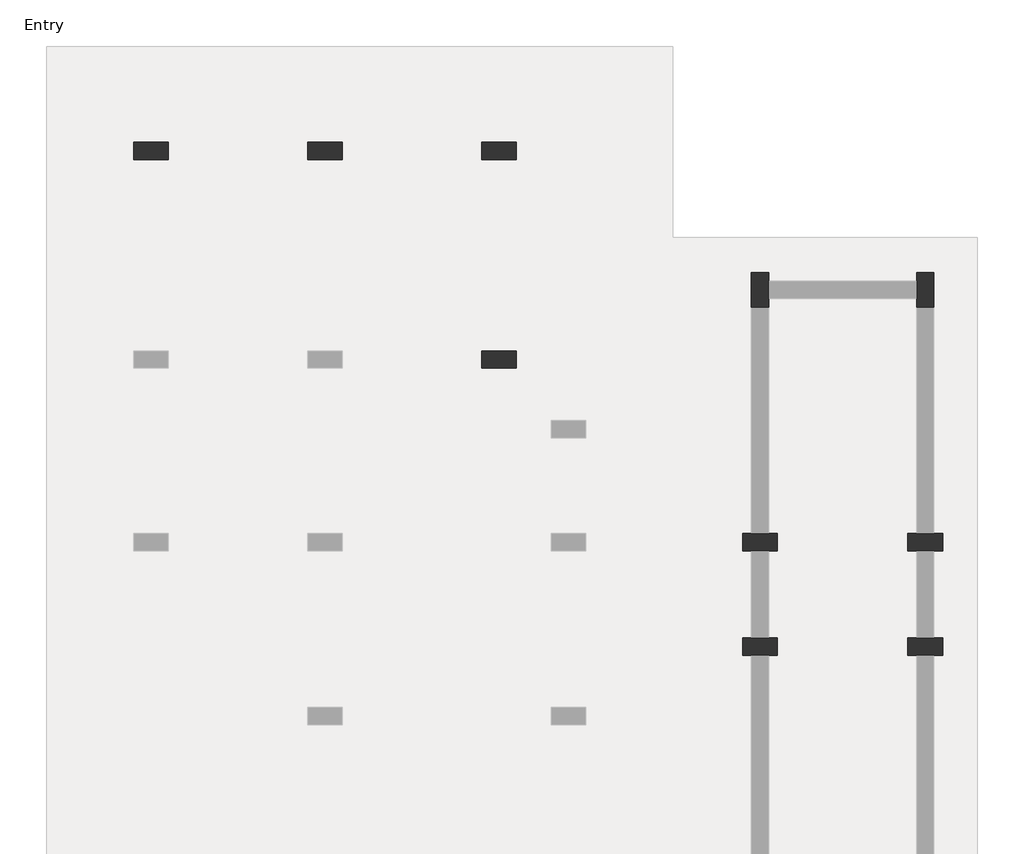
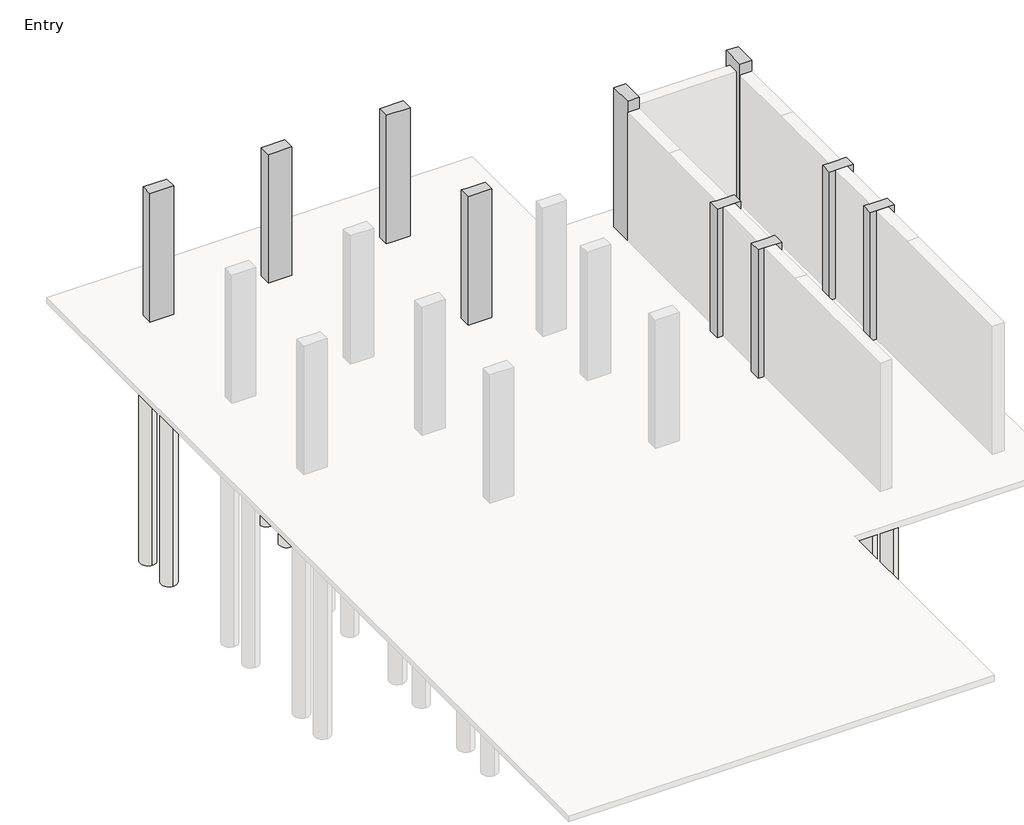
# One storey, part 3 of 3: 31 slabs, 10 columns, 5 footings.
"""IFC4 building model written with IfcOpenShell, lengths in millimetres."""

from ifc_helpers import new_model, si_unit, point, frame, frame_2d, origin, place, context, project, spatial, polyline, circle_curve, trimmed, segment, composite_curve, outline, extrude, faceted_brep, element, save

model = new_model("IFC4")

# Units and contexts
model_context = context("Model", 3, world=origin())
ifc_project = project(units=[si_unit("LENGTHUNIT", "METRE", prefix="MILLI")], contexts=[model_context])

# Site, building, storey
site = spatial("IfcSite", under=ifc_project)
building = spatial("IfcBuilding", under=site)
storey = spatial("IfcBuildingStorey", under=building, Name="Entry", Elevation=0.0)

# Columns
placement = place(None, origin())
element("IfcColumn", 1, ObjectType="Concrete-Rectangular-Column : 12 x 24", at=placement, inside=storey, context=model_context, shape_type="Brep", body=[
    faceted_brep([(-15967.1663981, 10274.1487848, 0.0), (-15357.5663981, 10274.1487848, 0.0), (-15357.5663981, 9969.3487848, 0.0), (-15967.1663981, 9969.3487848, 0.0), (-15967.1663981, 10274.1487848, 3505.2), (-15357.5663981, 10274.1487848, 3505.2), (-15357.5663981, 10274.1487848, 2895.6), (-15357.5663981, 9969.3487848, 3505.2), (-15357.5663981, 9969.3487848, 2895.6), (-15509.9663981, 9969.3487848, 3505.2), (-15814.7663981, 9969.3487848, 3505.2), (-15967.1663981, 9969.3487848, 3505.2)], [[[0, 1, 2, 3]], [[4, 5, 6, 1, 0]], [[5, 7, 8, 2, 1, 6]], [[7, 9, 10, 11, 3, 2, 8]], [[11, 4, 0, 3]], [[4, 11, 10, 9, 7, 5]]]),
])
element("IfcColumn", 2, ObjectType="Concrete-Rectangular-Column : 12 x 24", at=placement, inside=storey, context=model_context, shape_type="Brep", body=[
    faceted_brep([(-12919.1663981, 10274.1487848, 0.0), (-12309.5663981, 10274.1487848, 0.0), (-12309.5663981, 9969.3487848, 0.0), (-12919.1663981, 9969.3487848, 0.0), (-12919.1663981, 10274.1487848, 3505.2), (-12309.5663981, 10274.1487848, 3505.2), (-12309.5663981, 10274.1487848, 2895.6), (-12919.1663981, 10274.1487848, 2895.6), (-12309.5663981, 9969.3487848, 3505.2), (-12309.5663981, 9969.3487848, 2895.6), (-12461.9663981, 9969.3487848, 3505.2), (-12766.7663981, 9969.3487848, 3505.2), (-12919.1663981, 9969.3487848, 3505.2), (-12919.1663981, 9969.3487848, 2895.6)], [[[0, 1, 2, 3]], [[4, 5, 6, 1, 0, 7]], [[5, 8, 9, 2, 1, 6]], [[8, 10, 11, 12, 13, 3, 2, 9]], [[12, 4, 7, 0, 3, 13]], [[4, 12, 11, 10, 8, 5]]]),
])
element("IfcColumn", 3, ObjectType="Concrete-Rectangular-Column : 12 x 24", at=placement, inside=storey, context=model_context, shape_type="Brep", body=[
    faceted_brep([(-9871.1663981, 10274.1487848, 0.0), (-9261.5663981, 10274.1487848, 0.0), (-9261.5663981, 9969.3487848, 0.0), (-9871.1663981, 9969.3487848, 0.0), (-9871.1663981, 10274.1487848, 3505.2), (-9261.5663981, 10274.1487848, 3505.2), (-9871.1663981, 10274.1487848, 2895.6), (-9261.5663981, 9969.3487848, 3505.2), (-9413.9663981, 9969.3487848, 3505.2), (-9718.7663981, 9969.3487848, 3505.2), (-9871.1663981, 9969.3487848, 3505.2), (-9871.1663981, 9969.3487848, 2895.6)], [[[0, 1, 2, 3]], [[4, 5, 1, 0, 6]], [[5, 7, 2, 1]], [[7, 8, 9, 10, 11, 3, 2]], [[10, 4, 6, 0, 3, 11]], [[4, 10, 9, 8, 7, 5]]]),
])
element("IfcColumn", 4, ObjectType="Concrete-Rectangular-Column : 12 x 24", at=placement, inside=storey, context=model_context, shape_type="Brep", body=[
    faceted_brep([(-9871.1663981, 6616.5487848, 0.0), (-9261.5663981, 6616.5487848, 0.0), (-9261.5663981, 6311.7487848, 0.0), (-9871.1663981, 6311.7487848, 0.0), (-9871.1663981, 6616.5487848, 3505.2), (-9718.7663981, 6616.5487848, 3505.2), (-9413.9663981, 6616.5487848, 3505.2), (-9261.5663981, 6616.5487848, 3505.2), (-9871.1663981, 6616.5487848, 2895.6), (-9261.5663981, 6311.7487848, 3505.2), (-9413.9663981, 6311.7487848, 3505.2), (-9718.7663981, 6311.7487848, 3505.2), (-9871.1663981, 6311.7487848, 3505.2), (-9871.1663981, 6311.7487848, 2895.6)], [[[0, 1, 2, 3]], [[4, 5, 6, 7, 1, 0, 8]], [[7, 9, 2, 1]], [[9, 10, 11, 12, 13, 3, 2]], [[12, 4, 8, 0, 3, 13]], [[4, 12, 11, 10, 9, 7, 6, 5]]]),
])
element("IfcColumn", 5, ObjectType="Concrete-Rectangular-Column : 12 x 24", at=placement, inside=storey, context=model_context, shape_type="Brep", body=[
    faceted_brep([(-5299.1663981, 3416.1487848, 0.0), (-5146.7663981, 3416.1487848, 0.0), (-4841.9663981, 3416.1487848, 0.0), (-4689.5663981, 3416.1487848, 0.0), (-4689.5663981, 3111.3487848, 0.0), (-4841.9663981, 3111.3487848, 0.0), (-5146.7663981, 3111.3487848, 0.0), (-5299.1663981, 3111.3487848, 0.0), (-5299.1663981, 3416.1487848, 3505.2), (-5146.7663981, 3416.1487848, 3505.2), (-4841.9663981, 3416.1487848, 3505.2), (-4689.5663981, 3416.1487848, 3505.2), (-4689.5663981, 3111.3487848, 3505.2), (-4841.9663981, 3111.3487848, 3505.2), (-5146.7663981, 3111.3487848, 3505.2), (-5299.1663981, 3111.3487848, 3505.2)], [[[0, 1, 2, 3, 4, 5, 6, 7]], [[3, 2, 1, 0, 8, 9, 10, 11]], [[4, 3, 11, 12]], [[7, 6, 5, 4, 12, 13, 14, 15]], [[0, 7, 15, 8]], [[11, 10, 9, 8, 15, 14, 13, 12]]]),
])
element("IfcColumn", 6, ObjectType="Concrete-Rectangular-Column : 12 x 24", at=placement, inside=storey, context=model_context, shape_type="Brep", body=[
    faceted_brep([(-2403.5663981, 3416.1487848, 0.0), (-2251.1663981, 3416.1487848, 0.0), (-1946.3663981, 3416.1487848, 0.0), (-1793.9663981, 3416.1487848, 0.0), (-1793.9663981, 3111.3487848, 0.0), (-1946.3663981, 3111.3487848, 0.0), (-2251.1663981, 3111.3487848, 0.0), (-2403.5663981, 3111.3487848, 0.0), (-2403.5663981, 3416.1487848, 3505.2), (-2251.1663981, 3416.1487848, 3505.2), (-1946.3663981, 3416.1487848, 3505.2), (-1793.9663981, 3416.1487848, 3505.2), (-1793.9663981, 3111.3487848, 3505.2), (-1946.3663981, 3111.3487848, 3505.2), (-2251.1663981, 3111.3487848, 3505.2), (-2403.5663981, 3111.3487848, 3505.2)], [[[0, 1, 2, 3, 4, 5, 6, 7]], [[3, 2, 1, 0, 8, 9, 10, 11]], [[4, 3, 11, 12]], [[7, 6, 5, 4, 12, 13, 14, 15]], [[0, 7, 15, 8]], [[11, 10, 9, 8, 15, 14, 13, 12]]]),
])
element("IfcColumn", 7, ObjectType="Concrete-Rectangular-Column : 12 x 24", at=placement, inside=storey, context=model_context, shape_type="Brep", body=[
    faceted_brep([(-5299.1663981, 1587.3487848, 0.0), (-5146.7663981, 1587.3487848, 0.0), (-4841.9663981, 1587.3487848, 0.0), (-4689.5663981, 1587.3487848, 0.0), (-4689.5663981, 1282.5487848, 0.0), (-4841.9663981, 1282.5487848, 0.0), (-5146.7663981, 1282.5487848, 0.0), (-5299.1663981, 1282.5487848, 0.0), (-5299.1663981, 1587.3487848, 3505.2), (-5146.7663981, 1587.3487848, 3505.2), (-4841.9663981, 1587.3487848, 3505.2), (-4689.5663981, 1587.3487848, 3505.2), (-4689.5663981, 1282.5487848, 3505.2), (-4841.9663981, 1282.5487848, 3505.2), (-5146.7663981, 1282.5487848, 3505.2), (-5299.1663981, 1282.5487848, 3505.2)], [[[0, 1, 2, 3, 4, 5, 6, 7]], [[3, 2, 1, 0, 8, 9, 10, 11]], [[4, 3, 11, 12]], [[7, 6, 5, 4, 12, 13, 14, 15]], [[0, 7, 15, 8]], [[11, 10, 9, 8, 15, 14, 13, 12]]]),
])
element("IfcColumn", 8, ObjectType="Concrete-Rectangular-Column : 12 x 24", at=placement, inside=storey, context=model_context, shape_type="Brep", body=[
    faceted_brep([(-2403.5663981, 1587.3487848, 0.0), (-2251.1663981, 1587.3487848, 0.0), (-1946.3663981, 1587.3487848, 0.0), (-1793.9663981, 1587.3487848, 0.0), (-1793.9663981, 1282.5487848, 0.0), (-1946.3663981, 1282.5487848, 0.0), (-2251.1663981, 1282.5487848, 0.0), (-2403.5663981, 1282.5487848, 0.0), (-2403.5663981, 1587.3487848, 3505.2), (-2251.1663981, 1587.3487848, 3505.2), (-1946.3663981, 1587.3487848, 3505.2), (-1793.9663981, 1587.3487848, 3505.2), (-1793.9663981, 1282.5487848, 3505.2), (-1946.3663981, 1282.5487848, 3505.2), (-2251.1663981, 1282.5487848, 3505.2), (-2403.5663981, 1282.5487848, 3505.2)], [[[0, 1, 2, 3, 4, 5, 6, 7]], [[3, 2, 1, 0, 8, 9, 10, 11]], [[4, 3, 11, 12]], [[7, 6, 5, 4, 12, 13, 14, 15]], [[0, 7, 15, 8]], [[11, 10, 9, 8, 15, 14, 13, 12]]]),
])
element("IfcColumn", 9, ObjectType="Concrete-Rectangular-Column : 12 x 24", at=placement, inside=storey, context=model_context, shape_type="Brep", body=[
    faceted_brep([(-5146.7663981, 7378.5487848, 0.0), (-5146.7663981, 7988.1487848, 0.0), (-4841.9663981, 7988.1487848, 0.0), (-4841.9663981, 7835.7487848, 0.0), (-4841.9663981, 7530.9487848, 0.0), (-4841.9663981, 7378.5487848, 0.0), (-5146.7663981, 7378.5487848, 3810.0), (-5146.7663981, 7988.1487848, 3810.0), (-5146.7663981, 7378.5487848, 3505.2), (-4841.9663981, 7988.1487848, 3810.0), (-4841.9663981, 7378.5487848, 3810.0), (-4841.9663981, 7378.5487848, 3505.2)], [[[0, 1, 2, 3, 4, 5]], [[6, 7, 1, 0, 8]], [[7, 9, 2, 1]], [[9, 10, 11, 5, 4, 3, 2]], [[10, 6, 8, 0, 5, 11]], [[6, 10, 9, 7]]]),
])
element("IfcColumn", 10, ObjectType="Concrete-Rectangular-Column : 12 x 24", at=placement, inside=storey, context=model_context, shape_type="Brep", body=[
    faceted_brep([(-2251.1663981, 7378.5487848, 0.0), (-2251.1663981, 7530.9487848, 0.0), (-2251.1663981, 7835.7487848, 0.0), (-2251.1663981, 7988.1487848, 0.0), (-1946.3663981, 7988.1487848, 0.0), (-1946.3663981, 7378.5487848, 0.0), (-2251.1663981, 7378.5487848, 3810.0), (-2251.1663981, 7988.1487848, 3810.0), (-2251.1663981, 7378.5487848, 3505.2), (-1946.3663981, 7988.1487848, 3810.0), (-1946.3663981, 7378.5487848, 3810.0), (-1946.3663981, 7378.5487848, 3505.2)], [[[0, 1, 2, 3, 4, 5]], [[6, 7, 3, 2, 1, 0, 8]], [[7, 9, 4, 3]], [[9, 10, 11, 5, 4]], [[10, 6, 8, 0, 5, 11]], [[6, 10, 9, 7]]]),
])

# Footings
element("IfcFooting", 11, ObjectType="Bearing Footing - 36\" x 12\"", at=placement, inside=storey, context=model_context, shape_type="Brep", body=[
    faceted_brep([(-4841.9663981, 8140.5487848, -304.8), (-4841.9663981, 8089.7487848, -304.8), (-4841.9663981, 8089.7487848, -152.4), (-4841.9663981, 8140.5487848, -152.4), (-4841.9663981, 7276.9487848, -304.8), (-4841.9663981, 7226.1487848, -304.8), (-4841.9663981, 7226.1487848, -152.4), (-4841.9663981, 7276.9487848, -152.4), (-2251.1663981, 8089.7487848, -304.8), (-2251.1663981, 8140.5487848, -304.8), (-2251.1663981, 8140.5487848, -152.4), (-2251.1663981, 8089.7487848, -152.4), (-2251.1663981, 7226.1487848, -304.8), (-2251.1663981, 7276.9487848, -304.8), (-2251.1663981, 7276.9487848, -152.4), (-2251.1663981, 7226.1487848, -152.4), (-2873.4663981, 8089.7487848, -304.8), (-2873.4663981, 7276.9487848, -304.8), (-2555.9663981, 7226.1487848, -304.8), (-4537.1663981, 7226.1487848, -304.8), (-4219.6663981, 7276.9487848, -304.8), (-4219.6663981, 8089.7487848, -304.8), (-2555.9663981, 7226.1487848, -152.4), (-4537.1663981, 7226.1487848, -152.4), (-4219.6663981, 7276.9487848, -152.4), (-4219.6663981, 8089.7487848, -152.4), (-2873.4663981, 7276.9487848, -152.4), (-2873.4663981, 8089.7487848, -152.4)], [[[0, 1, 2, 3]], [[4, 5, 6, 7]], [[8, 9, 10, 11]], [[12, 13, 14, 15]], [[9, 0, 3, 10]], [[0, 9, 8, 16, 17, 13, 12, 18, 19, 5, 4, 20, 21, 1]], [[5, 19, 18, 12, 15, 22, 23, 6]], [[20, 4, 7, 24]], [[21, 20, 24, 25]], [[1, 21, 25, 2]], [[13, 17, 26, 14]], [[16, 8, 11, 27]], [[17, 16, 27, 26]], [[3, 2, 25, 24, 7, 6, 23, 22, 15, 14, 26, 27, 11, 10]]]),
])
element("IfcFooting", 12, ObjectType="Bearing Footing - 36\" x 12\"", at=placement, inside=storey, context=model_context, shape_type="SweptSolid", body=[
    extrude(outline(polyline([(-5451.5663981, 3416.1487848), (-5451.5663981, 7276.9487848), (-4841.9663981, 7276.9487848), (-4841.9663981, 7226.1487848), (-4537.1663981, 7226.1487848), (-4537.1663981, 3416.1487848), (-4587.9663981, 3416.1487848), (-4587.9663981, 4038.4487848), (-5400.7663981, 4038.4487848), (-5400.7663981, 3416.1487848), (-5451.5663981, 3416.1487848)])), frame((0.0, 0.0, -304.8), z_axis=(0.0, 0.0, 1.0), x_axis=(1.0, 0.0, 0.0)), (0.0, 0.0, 1.0), 152.4),
])
element("IfcFooting", 13, ObjectType="Bearing Footing - 36\" x 12\"", at=placement, inside=storey, context=model_context, shape_type="SweptSolid", body=[
    extrude(outline(polyline([(-1641.5663981, 7276.9487848), (-1641.5663981, 3416.1487848), (-1692.3663981, 3416.1487848), (-1692.3663981, 4038.4487848), (-2505.1663981, 4038.4487848), (-2505.1663981, 3416.1487848), (-2555.9663981, 3416.1487848), (-2555.9663981, 7226.1487848), (-2251.1663981, 7226.1487848), (-2251.1663981, 7276.9487848), (-1641.5663981, 7276.9487848)])), frame((0.0, 0.0, -304.8), z_axis=(0.0, 0.0, 1.0), x_axis=(1.0, 0.0, 0.0)), (0.0, 0.0, 1.0), 152.4),
])
element("IfcFooting", 14, ObjectType="Bearing Footing - 36\" x 12\"", at=placement, inside=storey, context=model_context, shape_type="SweptSolid", body=[
    extrude(outline(polyline([(-4537.1663981, 3111.3487848), (-4537.1663981, 1587.3487848), (-4587.9663981, 1587.3487848), (-4587.9663981, 2209.6487848), (-5400.7663981, 2209.6487848), (-5400.7663981, 1587.3487848), (-5451.5663981, 1587.3487848), (-5451.5663981, 3111.3487848), (-5400.7663981, 3111.3487848), (-5400.7663981, 2489.0487848), (-4587.9663981, 2489.0487848), (-4587.9663981, 3111.3487848), (-4537.1663981, 3111.3487848)])), frame((0.0, 0.0, -304.8), z_axis=(0.0, 0.0, 1.0), x_axis=(1.0, 0.0, 0.0)), (0.0, 0.0, 1.0), 152.4),
])
element("IfcFooting", 15, ObjectType="Bearing Footing - 36\" x 12\"", at=placement, inside=storey, context=model_context, shape_type="SweptSolid", body=[
    extrude(outline(polyline([(-1641.5663981, 3111.3487848), (-1641.5663981, 1587.3487848), (-1692.3663981, 1587.3487848), (-1692.3663981, 2209.6487848), (-2505.1663981, 2209.6487848), (-2505.1663981, 1587.3487848), (-2555.9663981, 1587.3487848), (-2555.9663981, 3111.3487848), (-2505.1663981, 3111.3487848), (-2505.1663981, 2489.0487848), (-1692.3663981, 2489.0487848), (-1692.3663981, 3111.3487848), (-1641.5663981, 3111.3487848)])), frame((0.0, 0.0, -304.8), z_axis=(0.0, 0.0, 1.0), x_axis=(1.0, 0.0, 0.0)), (0.0, 0.0, 1.0), 152.4),
])

# Slabs
element("IfcSlab", 16, ObjectType="Pile Cap-2 Pile : 31\"x61\"x35\"", at=placement, inside=storey, context=model_context, shape_type="SweptSolid", body=[
    extrude(outline(polyline([(-16068.7663981, 10896.4487848), (-15255.9663981, 10896.4487848), (-15255.9663981, 9347.0487848), (-16068.7663981, 9347.0487848), (-16068.7663981, 10896.4487848)])), frame((0.0, 0.0, -889.0), z_axis=(0.0, 0.0, 1.0), x_axis=(1.0, 0.0, 0.0)), (0.0, 0.0, 1.0), 736.6),
])
element("IfcSlab", 17, ObjectType="Pile Cap-2 Pile : 31\"x61\"x35\"", at=placement, inside=storey, context=model_context, shape_type="SweptSolid", body=[
    extrude(outline(polyline([(-13020.7663981, 10896.4487848), (-12207.9663981, 10896.4487848), (-12207.9663981, 9347.0487848), (-13020.7663981, 9347.0487848), (-13020.7663981, 10896.4487848)])), frame((0.0, 0.0, -889.0), z_axis=(0.0, 0.0, 1.0), x_axis=(1.0, 0.0, 0.0)), (0.0, 0.0, 1.0), 736.6),
])
element("IfcSlab", 18, ObjectType="Pile Cap-2 Pile : 31\"x61\"x35\"", at=placement, inside=storey, context=model_context, shape_type="SweptSolid", body=[
    extrude(outline(polyline([(-9972.7663981, 10896.4487848), (-9159.9663981, 10896.4487848), (-9159.9663981, 9347.0487848), (-9972.7663981, 9347.0487848), (-9972.7663981, 10896.4487848)])), frame((0.0, 0.0, -889.0), z_axis=(0.0, 0.0, 1.0), x_axis=(1.0, 0.0, 0.0)), (0.0, 0.0, 1.0), 736.6),
])
element("IfcSlab", 19, ObjectType="Pile Cap-2 Pile : 31\"x61\"x35\"", at=placement, inside=storey, context=model_context, shape_type="SweptSolid", body=[
    extrude(outline(polyline([(-9972.7663981, 7238.8487848), (-9159.9663981, 7238.8487848), (-9159.9663981, 5689.4487848), (-9972.7663981, 5689.4487848), (-9972.7663981, 7238.8487848)])), frame((0.0, 0.0, -889.0), z_axis=(0.0, 0.0, 1.0), x_axis=(1.0, 0.0, 0.0)), (0.0, 0.0, 1.0), 736.6),
])
element("IfcSlab", 20, ObjectType="Pile Cap-2 Pile : 31\"x61\"x35\"", at=placement, inside=storey, context=model_context, shape_type="Brep", body=[
    faceted_brep([(-5769.0663981, 7276.9487848, -889.0), (-5769.0663981, 8089.7487848, -889.0), (-4219.6663981, 8089.7487848, -889.0), (-4219.6663981, 7276.9487848, -889.0), (-4219.6663981, 7276.9487848, -304.8), (-4219.6663981, 7276.9487848, -152.4), (-4841.9663981, 7276.9487848, -152.4), (-5451.5663981, 7276.9487848, -152.4), (-5769.0663981, 7276.9487848, -152.4), (-4219.6663981, 8089.7487848, -304.8), (-4219.6663981, 8089.7487848, -152.4), (-5769.0663981, 8089.7487848, -152.4), (-4841.9663981, 8089.7487848, -152.4)], [[[0, 1, 2, 3]], [[0, 3, 4, 5, 6, 7, 8]], [[3, 2, 9, 10, 5, 4]], [[2, 1, 11, 12, 10, 9]], [[1, 0, 8, 11]], [[8, 7, 6, 5, 10, 12, 11]]]),
])
element("IfcSlab", 21, ObjectType="Pile Cap-2 Pile : 31\"x61\"x35\"", at=placement, inside=storey, context=model_context, shape_type="Brep", body=[
    faceted_brep([(-2873.4663981, 7276.9487848, -889.0), (-2873.4663981, 8089.7487848, -889.0), (-1324.0663981, 8089.7487848, -889.0), (-1324.0663981, 7276.9487848, -889.0), (-1324.0663981, 7276.9487848, -152.4), (-1641.5663981, 7276.9487848, -152.4), (-2251.1663981, 7276.9487848, -152.4), (-2873.4663981, 7276.9487848, -152.4), (-2873.4663981, 7276.9487848, -304.8), (-1324.0663981, 8089.7487848, -152.4), (-2873.4663981, 8089.7487848, -304.8), (-2873.4663981, 8089.7487848, -152.4), (-2251.1663981, 8089.7487848, -152.4)], [[[0, 1, 2, 3]], [[0, 3, 4, 5, 6, 7, 8]], [[3, 2, 9, 4]], [[2, 1, 10, 11, 12, 9]], [[1, 0, 8, 7, 11, 10]], [[7, 6, 5, 4, 9, 12, 11]]]),
])
element("IfcSlab", 22, ObjectType="Pile Cap-2 Pile : 31\"x61\"x35\"", at=placement, inside=storey, context=model_context, shape_type="Brep", body=[
    faceted_brep([(-5400.7663981, 4038.4487848, -889.0), (-4587.9663981, 4038.4487848, -889.0), (-4587.9663981, 2489.0487848, -889.0), (-5400.7663981, 2489.0487848, -889.0), (-5400.7663981, 2489.0487848, -304.8), (-5400.7663981, 2489.0487848, -152.4), (-5400.7663981, 3111.3487848, -152.4), (-5400.7663981, 3416.1487848, -152.4), (-5400.7663981, 4038.4487848, -152.4), (-5400.7663981, 4038.4487848, -304.8), (-4587.9663981, 2489.0487848, -304.8), (-4587.9663981, 2489.0487848, -152.4), (-4587.9663981, 4038.4487848, -304.8), (-4587.9663981, 4038.4487848, -152.4), (-4587.9663981, 3416.1487848, -152.4), (-4587.9663981, 3111.3487848, -152.4)], [[[0, 1, 2, 3]], [[0, 3, 4, 5, 6, 7, 8, 9]], [[3, 2, 10, 11, 5, 4]], [[2, 1, 12, 13, 14, 15, 11, 10]], [[1, 0, 9, 8, 13, 12]], [[8, 7, 6, 5, 11, 15, 14, 13]]]),
])
element("IfcSlab", 23, ObjectType="Pile Cap-2 Pile : 31\"x61\"x35\"", at=placement, inside=storey, context=model_context, shape_type="Brep", body=[
    faceted_brep([(-5400.7663981, 2209.6487848, -889.0), (-4587.9663981, 2209.6487848, -889.0), (-4587.9663981, 660.2487848, -889.0), (-5400.7663981, 660.2487848, -889.0), (-5400.7663981, 660.2487848, -304.8), (-5400.7663981, 660.2487848, -152.4), (-5400.7663981, 1282.5487848, -152.4), (-5400.7663981, 1587.3487848, -152.4), (-5400.7663981, 2209.6487848, -152.4), (-5400.7663981, 2209.6487848, -304.8), (-4587.9663981, 660.2487848, -304.8), (-4587.9663981, 660.2487848, -152.4), (-4587.9663981, 2209.6487848, -304.8), (-4587.9663981, 2209.6487848, -152.4), (-4587.9663981, 1587.3487848, -152.4), (-4587.9663981, 1282.5487848, -152.4)], [[[0, 1, 2, 3]], [[0, 3, 4, 5, 6, 7, 8, 9]], [[3, 2, 10, 11, 5, 4]], [[2, 1, 12, 13, 14, 15, 11, 10]], [[1, 0, 9, 8, 13, 12]], [[8, 7, 6, 5, 11, 15, 14, 13]]]),
])
element("IfcSlab", 24, ObjectType="Pile Cap-2 Pile : 31\"x61\"x35\"", at=placement, inside=storey, context=model_context, shape_type="Brep", body=[
    faceted_brep([(-2505.1663981, 4038.4487848, -889.0), (-1692.3663981, 4038.4487848, -889.0), (-1692.3663981, 2489.0487848, -889.0), (-2505.1663981, 2489.0487848, -889.0), (-2505.1663981, 2489.0487848, -304.8), (-2505.1663981, 2489.0487848, -152.4), (-2505.1663981, 3111.3487848, -152.4), (-2505.1663981, 3416.1487848, -152.4), (-2505.1663981, 4038.4487848, -152.4), (-2505.1663981, 4038.4487848, -304.8), (-1692.3663981, 2489.0487848, -304.8), (-1692.3663981, 2489.0487848, -152.4), (-1692.3663981, 4038.4487848, -304.8), (-1692.3663981, 4038.4487848, -152.4), (-1692.3663981, 3416.1487848, -152.4), (-1692.3663981, 3111.3487848, -152.4)], [[[0, 1, 2, 3]], [[0, 3, 4, 5, 6, 7, 8, 9]], [[3, 2, 10, 11, 5, 4]], [[2, 1, 12, 13, 14, 15, 11, 10]], [[1, 0, 9, 8, 13, 12]], [[8, 7, 6, 5, 11, 15, 14, 13]]]),
])
element("IfcSlab", 25, ObjectType="Pile Cap-2 Pile : 31\"x61\"x35\"", at=placement, inside=storey, context=model_context, shape_type="Brep", body=[
    faceted_brep([(-2505.1663981, 2209.6487848, -889.0), (-1692.3663981, 2209.6487848, -889.0), (-1692.3663981, 660.2487848, -889.0), (-2505.1663981, 660.2487848, -889.0), (-2505.1663981, 660.2487848, -304.8), (-2505.1663981, 660.2487848, -152.4), (-2505.1663981, 1282.5487848, -152.4), (-2505.1663981, 1587.3487848, -152.4), (-2505.1663981, 2209.6487848, -152.4), (-2505.1663981, 2209.6487848, -304.8), (-1692.3663981, 660.2487848, -304.8), (-1692.3663981, 660.2487848, -152.4), (-1692.3663981, 2209.6487848, -304.8), (-1692.3663981, 2209.6487848, -152.4), (-1692.3663981, 1587.3487848, -152.4), (-1692.3663981, 1282.5487848, -152.4)], [[[0, 1, 2, 3]], [[0, 3, 4, 5, 6, 7, 8, 9]], [[3, 2, 10, 11, 5, 4]], [[2, 1, 12, 13, 14, 15, 11, 10]], [[1, 0, 9, 8, 13, 12]], [[8, 7, 6, 5, 11, 15, 14, 13]]]),
])
element("IfcSlab", 26, ObjectType="Pile-Steel Pipe : 16\" Diameter", at=placement, inside=storey, context=model_context, shape_type="SweptSolid", body=[
    extrude(outline(composite_curve([segment(trimmed(circle_curve(frame_2d((-15662.3663981, 9651.8487848)), 203.2), [point((-15662.3663981, 9448.6487848))], [point((-15662.3663981, 9855.0487848))], False, "CARTESIAN"), True, "CONTINUOUS"), segment(trimmed(circle_curve(frame_2d((-15662.3663981, 9651.8487848)), 203.2), [point((-15662.3663981, 9855.0487848))], [point((-15662.3663981, 9448.6487848))], False, "CARTESIAN"), True, "CONTINUOUS")], self_intersect=False)), frame((0.0, 0.0, -6985.0), z_axis=(0.0, 0.0, 1.0), x_axis=(1.0, 0.0, 0.0)), (0.0, 0.0, 1.0), 6096.0),
])
element("IfcSlab", 27, ObjectType="Pile-Steel Pipe : 16\" Diameter", at=placement, inside=storey, context=model_context, shape_type="SweptSolid", body=[
    extrude(outline(composite_curve([segment(trimmed(circle_curve(frame_2d((-15662.3663981, 10591.6487848)), 203.2), [point((-15662.3663981, 10388.4487848))], [point((-15662.3663981, 10794.8487848))], False, "CARTESIAN"), True, "CONTINUOUS"), segment(trimmed(circle_curve(frame_2d((-15662.3663981, 10591.6487848)), 203.2), [point((-15662.3663981, 10794.8487848))], [point((-15662.3663981, 10388.4487848))], False, "CARTESIAN"), True, "CONTINUOUS")], self_intersect=False)), frame((0.0, 0.0, -6985.0), z_axis=(0.0, 0.0, 1.0), x_axis=(1.0, 0.0, 0.0)), (0.0, 0.0, 1.0), 6096.0),
])
element("IfcSlab", 28, ObjectType="Pile-Steel Pipe : 16\" Diameter", at=placement, inside=storey, context=model_context, shape_type="SweptSolid", body=[
    extrude(outline(composite_curve([segment(trimmed(circle_curve(frame_2d((-12614.3663981, 9651.8487848)), 203.2), [point((-12614.3663981, 9448.6487848))], [point((-12614.3663981, 9855.0487848))], False, "CARTESIAN"), True, "CONTINUOUS"), segment(trimmed(circle_curve(frame_2d((-12614.3663981, 9651.8487848)), 203.2), [point((-12614.3663981, 9855.0487848))], [point((-12614.3663981, 9448.6487848))], False, "CARTESIAN"), True, "CONTINUOUS")], self_intersect=False)), frame((0.0, 0.0, -6985.0), z_axis=(0.0, 0.0, 1.0), x_axis=(1.0, 0.0, 0.0)), (0.0, 0.0, 1.0), 6096.0),
])
element("IfcSlab", 29, ObjectType="Pile-Steel Pipe : 16\" Diameter", at=placement, inside=storey, context=model_context, shape_type="SweptSolid", body=[
    extrude(outline(composite_curve([segment(trimmed(circle_curve(frame_2d((-12614.3663981, 10591.6487848)), 203.2), [point((-12614.3663981, 10388.4487848))], [point((-12614.3663981, 10794.8487848))], False, "CARTESIAN"), True, "CONTINUOUS"), segment(trimmed(circle_curve(frame_2d((-12614.3663981, 10591.6487848)), 203.2), [point((-12614.3663981, 10794.8487848))], [point((-12614.3663981, 10388.4487848))], False, "CARTESIAN"), True, "CONTINUOUS")], self_intersect=False)), frame((0.0, 0.0, -6985.0), z_axis=(0.0, 0.0, 1.0), x_axis=(1.0, 0.0, 0.0)), (0.0, 0.0, 1.0), 6096.0),
])
element("IfcSlab", 30, ObjectType="Pile-Steel Pipe : 16\" Diameter", at=placement, inside=storey, context=model_context, shape_type="SweptSolid", body=[
    extrude(outline(composite_curve([segment(trimmed(circle_curve(frame_2d((-9566.3663981, 9651.8487848)), 203.2), [point((-9566.3663981, 9448.6487848))], [point((-9566.3663981, 9855.0487848))], False, "CARTESIAN"), True, "CONTINUOUS"), segment(trimmed(circle_curve(frame_2d((-9566.3663981, 9651.8487848)), 203.2), [point((-9566.3663981, 9855.0487848))], [point((-9566.3663981, 9448.6487848))], False, "CARTESIAN"), True, "CONTINUOUS")], self_intersect=False)), frame((0.0, 0.0, -6985.0), z_axis=(0.0, 0.0, 1.0), x_axis=(1.0, 0.0, 0.0)), (0.0, 0.0, 1.0), 6096.0),
])
element("IfcSlab", 31, ObjectType="Pile-Steel Pipe : 16\" Diameter", at=placement, inside=storey, context=model_context, shape_type="SweptSolid", body=[
    extrude(outline(composite_curve([segment(trimmed(circle_curve(frame_2d((-9566.3663981, 10591.6487848)), 203.2), [point((-9566.3663981, 10388.4487848))], [point((-9566.3663981, 10794.8487848))], False, "CARTESIAN"), True, "CONTINUOUS"), segment(trimmed(circle_curve(frame_2d((-9566.3663981, 10591.6487848)), 203.2), [point((-9566.3663981, 10794.8487848))], [point((-9566.3663981, 10388.4487848))], False, "CARTESIAN"), True, "CONTINUOUS")], self_intersect=False)), frame((0.0, 0.0, -6985.0), z_axis=(0.0, 0.0, 1.0), x_axis=(1.0, 0.0, 0.0)), (0.0, 0.0, 1.0), 6096.0),
])
element("IfcSlab", 32, ObjectType="Pile-Steel Pipe : 16\" Diameter", at=placement, inside=storey, context=model_context, shape_type="SweptSolid", body=[
    extrude(outline(composite_curve([segment(trimmed(circle_curve(frame_2d((-9566.3663981, 6934.0487848)), 203.2), [point((-9566.3663981, 6730.8487848))], [point((-9566.3663981, 7137.2487848))], False, "CARTESIAN"), True, "CONTINUOUS"), segment(trimmed(circle_curve(frame_2d((-9566.3663981, 6934.0487848)), 203.2), [point((-9566.3663981, 7137.2487848))], [point((-9566.3663981, 6730.8487848))], False, "CARTESIAN"), True, "CONTINUOUS")], self_intersect=False)), frame((0.0, 0.0, -6985.0), z_axis=(0.0, 0.0, 1.0), x_axis=(1.0, 0.0, 0.0)), (0.0, 0.0, 1.0), 6096.0),
])
element("IfcSlab", 33, ObjectType="Pile-Steel Pipe : 16\" Diameter", at=placement, inside=storey, context=model_context, shape_type="SweptSolid", body=[
    extrude(outline(composite_curve([segment(trimmed(circle_curve(frame_2d((-4524.4663981, 7683.3487848)), 203.2), [point((-4321.2663981, 7683.3487848))], [point((-4727.6663981, 7683.3487848))], False, "CARTESIAN"), True, "CONTINUOUS"), segment(trimmed(circle_curve(frame_2d((-4524.4663981, 7683.3487848)), 203.2), [point((-4727.6663981, 7683.3487848))], [point((-4321.2663981, 7683.3487848))], False, "CARTESIAN"), True, "CONTINUOUS")], self_intersect=False)), frame((0.0, 0.0, -6985.0), z_axis=(0.0, 0.0, 1.0), x_axis=(1.0, 0.0, 0.0)), (0.0, 0.0, 1.0), 6096.0),
])
element("IfcSlab", 34, ObjectType="Pile-Steel Pipe : 16\" Diameter", at=placement, inside=storey, context=model_context, shape_type="SweptSolid", body=[
    extrude(outline(composite_curve([segment(trimmed(circle_curve(frame_2d((-5464.2663981, 7683.3487848)), 203.2), [point((-5261.0663981, 7683.3487848))], [point((-5667.4663981, 7683.3487848))], False, "CARTESIAN"), True, "CONTINUOUS"), segment(trimmed(circle_curve(frame_2d((-5464.2663981, 7683.3487848)), 203.2), [point((-5667.4663981, 7683.3487848))], [point((-5261.0663981, 7683.3487848))], False, "CARTESIAN"), True, "CONTINUOUS")], self_intersect=False)), frame((0.0, 0.0, -6985.0), z_axis=(0.0, 0.0, 1.0), x_axis=(1.0, 0.0, 0.0)), (0.0, 0.0, 1.0), 6096.0),
])
element("IfcSlab", 35, ObjectType="Pile-Steel Pipe : 16\" Diameter", at=placement, inside=storey, context=model_context, shape_type="SweptSolid", body=[
    extrude(outline(composite_curve([segment(trimmed(circle_curve(frame_2d((-1628.8663981, 7683.3487848)), 203.2), [point((-1425.6663981, 7683.3487848))], [point((-1832.0663981, 7683.3487848))], False, "CARTESIAN"), True, "CONTINUOUS"), segment(trimmed(circle_curve(frame_2d((-1628.8663981, 7683.3487848)), 203.2), [point((-1832.0663981, 7683.3487848))], [point((-1425.6663981, 7683.3487848))], False, "CARTESIAN"), True, "CONTINUOUS")], self_intersect=False)), frame((0.0, 0.0, -6985.0), z_axis=(0.0, 0.0, 1.0), x_axis=(1.0, 0.0, 0.0)), (0.0, 0.0, 1.0), 6096.0),
])
element("IfcSlab", 36, ObjectType="Pile-Steel Pipe : 16\" Diameter", at=placement, inside=storey, context=model_context, shape_type="SweptSolid", body=[
    extrude(outline(composite_curve([segment(trimmed(circle_curve(frame_2d((-2568.6663981, 7683.3487848)), 203.2), [point((-2365.4663981, 7683.3487848))], [point((-2771.8663981, 7683.3487848))], False, "CARTESIAN"), True, "CONTINUOUS"), segment(trimmed(circle_curve(frame_2d((-2568.6663981, 7683.3487848)), 203.2), [point((-2771.8663981, 7683.3487848))], [point((-2365.4663981, 7683.3487848))], False, "CARTESIAN"), True, "CONTINUOUS")], self_intersect=False)), frame((0.0, 0.0, -6985.0), z_axis=(0.0, 0.0, 1.0), x_axis=(1.0, 0.0, 0.0)), (0.0, 0.0, 1.0), 6096.0),
])
element("IfcSlab", 37, ObjectType="Pile-Steel Pipe : 16\" Diameter", at=placement, inside=storey, context=model_context, shape_type="SweptSolid", body=[
    extrude(outline(composite_curve([segment(trimmed(circle_curve(frame_2d((-4994.3663981, 2793.8487848)), 203.2), [point((-4994.3663981, 2590.6487848))], [point((-4994.3663981, 2997.0487848))], False, "CARTESIAN"), True, "CONTINUOUS"), segment(trimmed(circle_curve(frame_2d((-4994.3663981, 2793.8487848)), 203.2), [point((-4994.3663981, 2997.0487848))], [point((-4994.3663981, 2590.6487848))], False, "CARTESIAN"), True, "CONTINUOUS")], self_intersect=False)), frame((0.0, 0.0, -6985.0), z_axis=(0.0, 0.0, 1.0), x_axis=(1.0, 0.0, 0.0)), (0.0, 0.0, 1.0), 6096.0),
])
element("IfcSlab", 38, ObjectType="Pile-Steel Pipe : 16\" Diameter", at=placement, inside=storey, context=model_context, shape_type="SweptSolid", body=[
    extrude(outline(composite_curve([segment(trimmed(circle_curve(frame_2d((-4994.3663981, 3733.6487848)), 203.2), [point((-4994.3663981, 3530.4487848))], [point((-4994.3663981, 3936.8487848))], False, "CARTESIAN"), True, "CONTINUOUS"), segment(trimmed(circle_curve(frame_2d((-4994.3663981, 3733.6487848)), 203.2), [point((-4994.3663981, 3936.8487848))], [point((-4994.3663981, 3530.4487848))], False, "CARTESIAN"), True, "CONTINUOUS")], self_intersect=False)), frame((0.0, 0.0, -6985.0), z_axis=(0.0, 0.0, 1.0), x_axis=(1.0, 0.0, 0.0)), (0.0, 0.0, 1.0), 6096.0),
])
element("IfcSlab", 39, ObjectType="Pile-Steel Pipe : 16\" Diameter", at=placement, inside=storey, context=model_context, shape_type="SweptSolid", body=[
    extrude(outline(composite_curve([segment(trimmed(circle_curve(frame_2d((-4994.3663981, 965.0487848)), 203.2), [point((-4994.3663981, 761.8487848))], [point((-4994.3663981, 1168.2487848))], False, "CARTESIAN"), True, "CONTINUOUS"), segment(trimmed(circle_curve(frame_2d((-4994.3663981, 965.0487848)), 203.2), [point((-4994.3663981, 1168.2487848))], [point((-4994.3663981, 761.8487848))], False, "CARTESIAN"), True, "CONTINUOUS")], self_intersect=False)), frame((0.0, 0.0, -6985.0), z_axis=(0.0, 0.0, 1.0), x_axis=(1.0, 0.0, 0.0)), (0.0, 0.0, 1.0), 6096.0),
])
element("IfcSlab", 40, ObjectType="Pile-Steel Pipe : 16\" Diameter", at=placement, inside=storey, context=model_context, shape_type="SweptSolid", body=[
    extrude(outline(composite_curve([segment(trimmed(circle_curve(frame_2d((-4994.3663981, 1904.8487848)), 203.2), [point((-4994.3663981, 1701.6487848))], [point((-4994.3663981, 2108.0487848))], False, "CARTESIAN"), True, "CONTINUOUS"), segment(trimmed(circle_curve(frame_2d((-4994.3663981, 1904.8487848)), 203.2), [point((-4994.3663981, 2108.0487848))], [point((-4994.3663981, 1701.6487848))], False, "CARTESIAN"), True, "CONTINUOUS")], self_intersect=False)), frame((0.0, 0.0, -6985.0), z_axis=(0.0, 0.0, 1.0), x_axis=(1.0, 0.0, 0.0)), (0.0, 0.0, 1.0), 6096.0),
])
element("IfcSlab", 41, ObjectType="Pile-Steel Pipe : 16\" Diameter", at=placement, inside=storey, context=model_context, shape_type="SweptSolid", body=[
    extrude(outline(composite_curve([segment(trimmed(circle_curve(frame_2d((-2098.7663981, 2793.8487848)), 203.2), [point((-2098.7663981, 2590.6487848))], [point((-2098.7663981, 2997.0487848))], False, "CARTESIAN"), True, "CONTINUOUS"), segment(trimmed(circle_curve(frame_2d((-2098.7663981, 2793.8487848)), 203.2), [point((-2098.7663981, 2997.0487848))], [point((-2098.7663981, 2590.6487848))], False, "CARTESIAN"), True, "CONTINUOUS")], self_intersect=False)), frame((0.0, 0.0, -6985.0), z_axis=(0.0, 0.0, 1.0), x_axis=(1.0, 0.0, 0.0)), (0.0, 0.0, 1.0), 6096.0),
])
element("IfcSlab", 42, ObjectType="Pile-Steel Pipe : 16\" Diameter", at=placement, inside=storey, context=model_context, shape_type="SweptSolid", body=[
    extrude(outline(composite_curve([segment(trimmed(circle_curve(frame_2d((-2098.7663981, 3733.6487848)), 203.2), [point((-2098.7663981, 3530.4487848))], [point((-2098.7663981, 3936.8487848))], False, "CARTESIAN"), True, "CONTINUOUS"), segment(trimmed(circle_curve(frame_2d((-2098.7663981, 3733.6487848)), 203.2), [point((-2098.7663981, 3936.8487848))], [point((-2098.7663981, 3530.4487848))], False, "CARTESIAN"), True, "CONTINUOUS")], self_intersect=False)), frame((0.0, 0.0, -6985.0), z_axis=(0.0, 0.0, 1.0), x_axis=(1.0, 0.0, 0.0)), (0.0, 0.0, 1.0), 6096.0),
])
element("IfcSlab", 43, ObjectType="Pile-Steel Pipe : 16\" Diameter", at=placement, inside=storey, context=model_context, shape_type="SweptSolid", body=[
    extrude(outline(composite_curve([segment(trimmed(circle_curve(frame_2d((-2098.7663981, 965.0487848)), 203.2), [point((-2098.7663981, 761.8487848))], [point((-2098.7663981, 1168.2487848))], False, "CARTESIAN"), True, "CONTINUOUS"), segment(trimmed(circle_curve(frame_2d((-2098.7663981, 965.0487848)), 203.2), [point((-2098.7663981, 1168.2487848))], [point((-2098.7663981, 761.8487848))], False, "CARTESIAN"), True, "CONTINUOUS")], self_intersect=False)), frame((0.0, 0.0, -6985.0), z_axis=(0.0, 0.0, 1.0), x_axis=(1.0, 0.0, 0.0)), (0.0, 0.0, 1.0), 6096.0),
])
element("IfcSlab", 44, ObjectType="Pile-Steel Pipe : 16\" Diameter", at=placement, inside=storey, context=model_context, shape_type="SweptSolid", body=[
    extrude(outline(composite_curve([segment(trimmed(circle_curve(frame_2d((-2098.7663981, 1904.8487848)), 203.2), [point((-2098.7663981, 1701.6487848))], [point((-2098.7663981, 2108.0487848))], False, "CARTESIAN"), True, "CONTINUOUS"), segment(trimmed(circle_curve(frame_2d((-2098.7663981, 1904.8487848)), 203.2), [point((-2098.7663981, 2108.0487848))], [point((-2098.7663981, 1701.6487848))], False, "CARTESIAN"), True, "CONTINUOUS")], self_intersect=False)), frame((0.0, 0.0, -6985.0), z_axis=(0.0, 0.0, 1.0), x_axis=(1.0, 0.0, 0.0)), (0.0, 0.0, 1.0), 6096.0),
])
element("IfcSlab", 45, ObjectType="Pile-Steel Pipe : 16\" Diameter", at=placement, inside=storey, context=model_context, shape_type="SweptSolid", body=[
    extrude(outline(composite_curve([segment(trimmed(circle_curve(frame_2d((-7877.2663981, 5244.9487848)), 203.2), [point((-7674.0663981, 5244.9487848))], [point((-8080.4663981, 5244.9487848))], False, "CARTESIAN"), True, "CONTINUOUS"), segment(trimmed(circle_curve(frame_2d((-7877.2663981, 5244.9487848)), 203.2), [point((-8080.4663981, 5244.9487848))], [point((-7674.0663981, 5244.9487848))], False, "CARTESIAN"), True, "CONTINUOUS")], self_intersect=False)), frame((0.0, 0.0, -6985.0), z_axis=(0.0, 0.0, 1.0), x_axis=(1.0, 0.0, 0.0)), (0.0, 0.0, 1.0), 6096.0),
])
element("IfcSlab", 46, ObjectType="Pile-Steel Pipe : 16\" Diameter", at=placement, inside=storey, context=model_context, shape_type="SweptSolid", body=[
    extrude(outline(composite_curve([segment(trimmed(circle_curve(frame_2d((-8817.0663981, 5244.9487848)), 203.2), [point((-8613.8663981, 5244.9487848))], [point((-9020.2663981, 5244.9487848))], False, "CARTESIAN"), True, "CONTINUOUS"), segment(trimmed(circle_curve(frame_2d((-8817.0663981, 5244.9487848)), 203.2), [point((-9020.2663981, 5244.9487848))], [point((-8613.8663981, 5244.9487848))], False, "CARTESIAN"), True, "CONTINUOUS")], self_intersect=False)), frame((0.0, 0.0, -6985.0), z_axis=(0.0, 0.0, 1.0), x_axis=(1.0, 0.0, 0.0)), (0.0, 0.0, 1.0), 6096.0),
])

save(model, "model.ifc")
